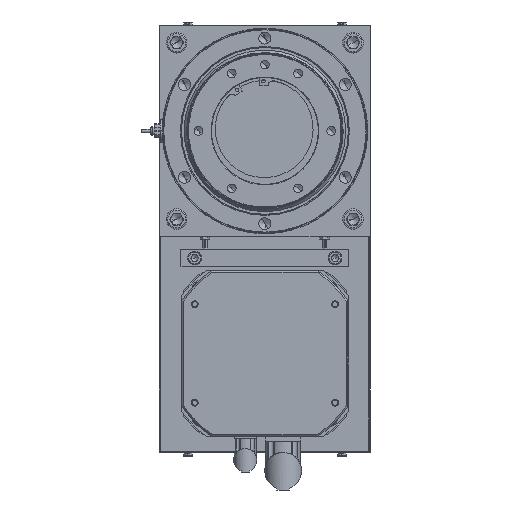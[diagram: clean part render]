
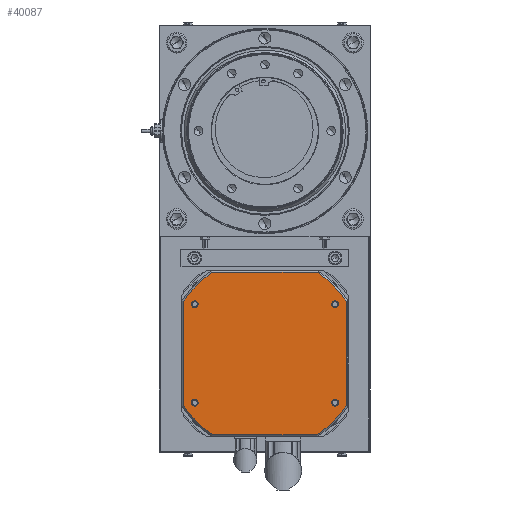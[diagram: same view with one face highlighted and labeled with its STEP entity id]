
A CAD part, front view. The second image highlights one B-rep face of the part: STEP entity #40087.
In plain terms, the highlighted planar face has unit normal (0, -1, 0).
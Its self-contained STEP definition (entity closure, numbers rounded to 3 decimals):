
#828 = AXIS2_PLACEMENT_3D ( 'NONE', #40759, #26921, #22803 ) ;
#1093 = DIRECTION ( 'NONE',  ( 0., 0., 1. ) ) ;
#1136 = CARTESIAN_POINT ( 'NONE',  ( -41.25, 628., -436.75 ) ) ;
#1212 = AXIS2_PLACEMENT_3D ( 'NONE', #10441, #24983, #36071 ) ;
#1427 = ORIENTED_EDGE ( 'NONE', *, *, #14798, .F. ) ;
#2465 = CARTESIAN_POINT ( 'NONE',  ( -62.092, 628., -288.25 ) ) ;
#2545 = DIRECTION ( 'NONE',  ( 0., 0., 1. ) ) ;
#4402 = LINE ( 'NONE', #35343, #28678 ) ;
#4552 = CARTESIAN_POINT ( 'NONE',  ( -205.25, 628., -325.75 ) ) ;
#4739 = EDGE_CURVE ( 'NONE', #18546, #37579, #5643, .T. ) ;
#5454 = EDGE_CURVE ( 'NONE', #43878, #35337, #41268, .T. ) ;
#5643 = CIRCLE ( 'NONE', #42122, 4. ) ;
#5949 = CARTESIAN_POINT ( 'NONE',  ( -28.25, 628., -322.092 ) ) ;
#5987 = VERTEX_POINT ( 'NONE', #16646 ) ;
#6175 = DIRECTION ( 'NONE',  ( 0., 0., 1. ) ) ;
#6322 = CARTESIAN_POINT ( 'NONE',  ( -120.707, 628., -385.793 ) ) ;
#6730 = CARTESIAN_POINT ( 'NONE',  ( -218.25, 628., -380.707 ) ) ;
#7176 = EDGE_CURVE ( 'NONE', #5987, #23558, #4402, .T. ) ;
#8508 = DIRECTION ( 'NONE',  ( 0., -1., 0. ) ) ;
#8639 = VERTEX_POINT ( 'NONE', #1136 ) ;
#8724 = EDGE_LOOP ( 'NONE', ( #1427, #11629 ) ) ;
#8760 = DIRECTION ( 'NONE',  ( 0., -1., 0. ) ) ;
#8852 = ORIENTED_EDGE ( 'NONE', *, *, #4739, .F. ) ;
#8891 = CARTESIAN_POINT ( 'NONE',  ( -41.25, 628., -321.75 ) ) ;
#9078 = VERTEX_POINT ( 'NONE', #2465 ) ;
#9424 = CARTESIAN_POINT ( 'NONE',  ( -205.25, 628., -444.75 ) ) ;
#9533 = DIRECTION ( 'NONE',  ( 0., 0., 1. ) ) ;
#9926 = AXIS2_PLACEMENT_3D ( 'NONE', #4552, #8508, #1093 ) ;
#10130 = CARTESIAN_POINT ( 'NONE',  ( -41.25, 628., -325.75 ) ) ;
#10228 = CARTESIAN_POINT ( 'NONE',  ( -125.793, 628., -380.707 ) ) ;
#10326 = EDGE_CURVE ( 'NONE', #14756, #29222, #44009, .T. ) ;
#10359 = DIRECTION ( 'NONE',  ( 0., 0., -1. ) ) ;
#10441 = CARTESIAN_POINT ( 'NONE',  ( -205.25, 628., -440.75 ) ) ;
#10861 = AXIS2_PLACEMENT_3D ( 'NONE', #31043, #41980, #9533 ) ;
#10889 = DIRECTION ( 'NONE',  ( 0., 0., 1. ) ) ;
#11336 = FACE_BOUND ( 'NONE', #24892, .T. ) ;
#11374 = CARTESIAN_POINT ( 'NONE',  ( -62.092, 628., -478.25 ) ) ;
#11619 = CARTESIAN_POINT ( 'NONE',  ( -218.25, 628., -322.092 ) ) ;
#11629 = ORIENTED_EDGE ( 'NONE', *, *, #46062, .F. ) ;
#11854 = CARTESIAN_POINT ( 'NONE',  ( -205.25, 628., -321.75 ) ) ;
#12599 = EDGE_CURVE ( 'NONE', #35913, #46184, #14052, .T. ) ;
#12682 = VERTEX_POINT ( 'NONE', #11854 ) ;
#13371 = EDGE_CURVE ( 'NONE', #23558, #9078, #45156, .T. ) ;
#13642 = DIRECTION ( 'NONE',  ( 0., 0., 1. ) ) ;
#13724 = DIRECTION ( 'NONE',  ( 0., 0., 1. ) ) ;
#14033 = CIRCLE ( 'NONE', #40113, 4. ) ;
#14052 = CIRCLE ( 'NONE', #1212, 4. ) ;
#14132 = DIRECTION ( 'NONE',  ( 0., 1., 0. ) ) ;
#14512 = EDGE_LOOP ( 'NONE', ( #41685, #39987 ) ) ;
#14601 = ORIENTED_EDGE ( 'NONE', *, *, #28657, .T. ) ;
#14756 = VERTEX_POINT ( 'NONE', #11619 ) ;
#14796 = DIRECTION ( 'NONE',  ( 0., 0., 1. ) ) ;
#14798 = EDGE_CURVE ( 'NONE', #8639, #27878, #18022, .T. ) ;
#15103 = CARTESIAN_POINT ( 'NONE',  ( -120.707, 628., -380.707 ) ) ;
#16200 = CARTESIAN_POINT ( 'NONE',  ( -205.25, 628., -436.75 ) ) ;
#16428 = EDGE_CURVE ( 'NONE', #35337, #5987, #20691, .T. ) ;
#16646 = CARTESIAN_POINT ( 'NONE',  ( -28.25, 628., -444.408 ) ) ;
#16735 = AXIS2_PLACEMENT_3D ( 'NONE', #31778, #28148, #6175 ) ;
#16912 = AXIS2_PLACEMENT_3D ( 'NONE', #34391, #8760, #38045 ) ;
#17363 = DIRECTION ( 'NONE',  ( 0., 0., 1. ) ) ;
#17998 = ORIENTED_EDGE ( 'NONE', *, *, #16428, .T. ) ;
#18022 = CIRCLE ( 'NONE', #828, 4. ) ;
#18104 = DIRECTION ( 'NONE',  ( 0., -1., 0. ) ) ;
#18546 = VERTEX_POINT ( 'NONE', #26925 ) ;
#19689 = ORIENTED_EDGE ( 'NONE', *, *, #44103, .F. ) ;
#20297 = EDGE_CURVE ( 'NONE', #12682, #36278, #14033, .T. ) ;
#20677 = DIRECTION ( 'NONE',  ( 0., -1., 0. ) ) ;
#20691 = CIRCLE ( 'NONE', #10861, 116.5 ) ;
#20888 = FACE_BOUND ( 'NONE', #14512, .T. ) ;
#21003 = EDGE_CURVE ( 'NONE', #29222, #43878, #29211, .T. ) ;
#21217 = LINE ( 'NONE', #29122, #24078 ) ;
#22217 = CARTESIAN_POINT ( 'NONE',  ( -205.25, 628., -329.75 ) ) ;
#22287 = DIRECTION ( 'NONE',  ( -1., 0., 0. ) ) ;
#22803 = DIRECTION ( 'NONE',  ( 0., 0., 1. ) ) ;
#23287 = AXIS2_PLACEMENT_3D ( 'NONE', #38607, #42238, #17363 ) ;
#23558 = VERTEX_POINT ( 'NONE', #5949 ) ;
#24078 = VECTOR ( 'NONE', #22287, 1000. ) ;
#24100 = AXIS2_PLACEMENT_3D ( 'NONE', #6322, #42547, #2545 ) ;
#24713 = CIRCLE ( 'NONE', #35286, 4. ) ;
#24892 = EDGE_LOOP ( 'NONE', ( #45819, #8852 ) ) ;
#24983 = DIRECTION ( 'NONE',  ( 0., -1., 0. ) ) ;
#25089 = ORIENTED_EDGE ( 'NONE', *, *, #10326, .T. ) ;
#25138 = EDGE_LOOP ( 'NONE', ( #46133, #19689 ) ) ;
#25274 = CARTESIAN_POINT ( 'NONE',  ( -205.25, 628., -325.75 ) ) ;
#25468 = EDGE_CURVE ( 'NONE', #36278, #12682, #39236, .T. ) ;
#25734 = CARTESIAN_POINT ( 'NONE',  ( -218.25, 628., -444.408 ) ) ;
#26228 = DIRECTION ( 'NONE',  ( 0., -1., 0. ) ) ;
#26921 = DIRECTION ( 'NONE',  ( 0., -1., 0. ) ) ;
#26925 = CARTESIAN_POINT ( 'NONE',  ( -41.25, 628., -329.75 ) ) ;
#27878 = VERTEX_POINT ( 'NONE', #39737 ) ;
#28148 = DIRECTION ( 'NONE',  ( 0., -1., 0. ) ) ;
#28657 = EDGE_CURVE ( 'NONE', #9078, #36263, #21217, .T. ) ;
#28678 = VECTOR ( 'NONE', #13642, 1000. ) ;
#29122 = CARTESIAN_POINT ( 'NONE',  ( -125.793, 628., -288.25 ) ) ;
#29211 = CIRCLE ( 'NONE', #44426, 116.5 ) ;
#29222 = VERTEX_POINT ( 'NONE', #25734 ) ;
#29861 = DIRECTION ( 'NONE',  ( 0., 0., 1. ) ) ;
#29958 = AXIS2_PLACEMENT_3D ( 'NONE', #10228, #14132, #39497 ) ;
#31043 = CARTESIAN_POINT ( 'NONE',  ( -125.793, 628., -380.707 ) ) ;
#31778 = CARTESIAN_POINT ( 'NONE',  ( -205.25, 628., -440.75 ) ) ;
#32251 = DIRECTION ( 'NONE',  ( 0., -1., 0. ) ) ;
#33477 = ORIENTED_EDGE ( 'NONE', *, *, #21003, .T. ) ;
#33830 = CARTESIAN_POINT ( 'NONE',  ( -41.25, 628., -440.75 ) ) ;
#34391 = CARTESIAN_POINT ( 'NONE',  ( -125.793, 628., -385.793 ) ) ;
#34504 = CARTESIAN_POINT ( 'NONE',  ( -125.793, 628., -478.25 ) ) ;
#34626 = EDGE_CURVE ( 'NONE', #37579, #18546, #39176, .T. ) ;
#35052 = ORIENTED_EDGE ( 'NONE', *, *, #5454, .T. ) ;
#35286 = AXIS2_PLACEMENT_3D ( 'NONE', #33830, #26228, #29861 ) ;
#35337 = VERTEX_POINT ( 'NONE', #11374 ) ;
#35343 = CARTESIAN_POINT ( 'NONE',  ( -28.25, 628., -380.707 ) ) ;
#35913 = VERTEX_POINT ( 'NONE', #16200 ) ;
#36071 = DIRECTION ( 'NONE',  ( 0., 0., 1. ) ) ;
#36263 = VERTEX_POINT ( 'NONE', #36364 ) ;
#36270 = FACE_BOUND ( 'NONE', #25138, .T. ) ;
#36278 = VERTEX_POINT ( 'NONE', #22217 ) ;
#36364 = CARTESIAN_POINT ( 'NONE',  ( -184.408, 628., -288.25 ) ) ;
#37190 = VECTOR ( 'NONE', #10359, 1000. ) ;
#37396 = DIRECTION ( 'NONE',  ( 1., 0., 0. ) ) ;
#37438 = ORIENTED_EDGE ( 'NONE', *, *, #7176, .T. ) ;
#37579 = VERTEX_POINT ( 'NONE', #8891 ) ;
#37642 = CIRCLE ( 'NONE', #16735, 4. ) ;
#37929 = FACE_OUTER_BOUND ( 'NONE', #42384, .T. ) ;
#38045 = DIRECTION ( 'NONE',  ( 0., 0., 1. ) ) ;
#38607 = CARTESIAN_POINT ( 'NONE',  ( -41.25, 628., -325.75 ) ) ;
#39176 = CIRCLE ( 'NONE', #23287, 4. ) ;
#39236 = CIRCLE ( 'NONE', #9926, 4. ) ;
#39497 = DIRECTION ( 'NONE',  ( 0., 0., 1. ) ) ;
#39737 = CARTESIAN_POINT ( 'NONE',  ( -41.25, 628., -444.75 ) ) ;
#39821 = ORIENTED_EDGE ( 'NONE', *, *, #13371, .T. ) ;
#39953 = CIRCLE ( 'NONE', #24100, 116.5 ) ;
#39987 = ORIENTED_EDGE ( 'NONE', *, *, #25468, .F. ) ;
#40087 = ADVANCED_FACE ( 'NONE', ( #37929, #45862, #20888, #11336, #36270 ), #42499, .F. ) ;
#40113 = AXIS2_PLACEMENT_3D ( 'NONE', #25274, #32251, #10889 ) ;
#40544 = CARTESIAN_POINT ( 'NONE',  ( -184.408, 628., -478.25 ) ) ;
#40759 = CARTESIAN_POINT ( 'NONE',  ( -41.25, 628., -440.75 ) ) ;
#41268 = LINE ( 'NONE', #34504, #43568 ) ;
#41685 = ORIENTED_EDGE ( 'NONE', *, *, #20297, .F. ) ;
#41980 = DIRECTION ( 'NONE',  ( 0., -1., 0. ) ) ;
#42122 = AXIS2_PLACEMENT_3D ( 'NONE', #10130, #20677, #13724 ) ;
#42238 = DIRECTION ( 'NONE',  ( 0., -1., 0. ) ) ;
#42384 = EDGE_LOOP ( 'NONE', ( #33477, #35052, #17998, #37438, #39821, #14601, #42562, #25089 ) ) ;
#42499 = PLANE ( 'NONE',  #29958 ) ;
#42547 = DIRECTION ( 'NONE',  ( 0., -1., 0. ) ) ;
#42562 = ORIENTED_EDGE ( 'NONE', *, *, #46893, .T. ) ;
#43568 = VECTOR ( 'NONE', #37396, 1000. ) ;
#43878 = VERTEX_POINT ( 'NONE', #40544 ) ;
#44009 = LINE ( 'NONE', #6730, #37190 ) ;
#44103 = EDGE_CURVE ( 'NONE', #46184, #35913, #37642, .T. ) ;
#44426 = AXIS2_PLACEMENT_3D ( 'NONE', #15103, #18104, #14796 ) ;
#45156 = CIRCLE ( 'NONE', #16912, 116.5 ) ;
#45819 = ORIENTED_EDGE ( 'NONE', *, *, #34626, .F. ) ;
#45862 = FACE_BOUND ( 'NONE', #8724, .T. ) ;
#46062 = EDGE_CURVE ( 'NONE', #27878, #8639, #24713, .T. ) ;
#46133 = ORIENTED_EDGE ( 'NONE', *, *, #12599, .F. ) ;
#46184 = VERTEX_POINT ( 'NONE', #9424 ) ;
#46893 = EDGE_CURVE ( 'NONE', #36263, #14756, #39953, .T. ) ;
